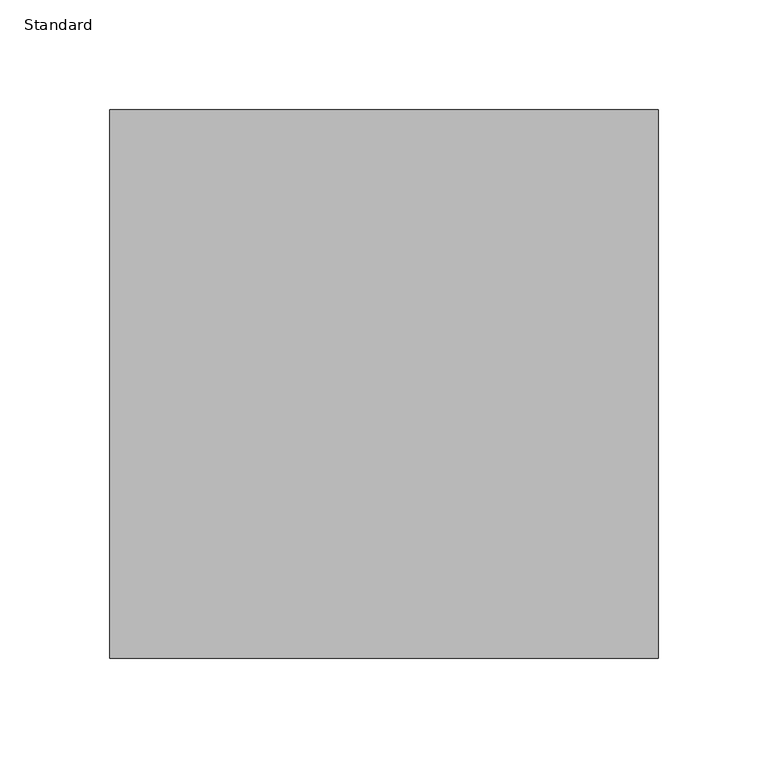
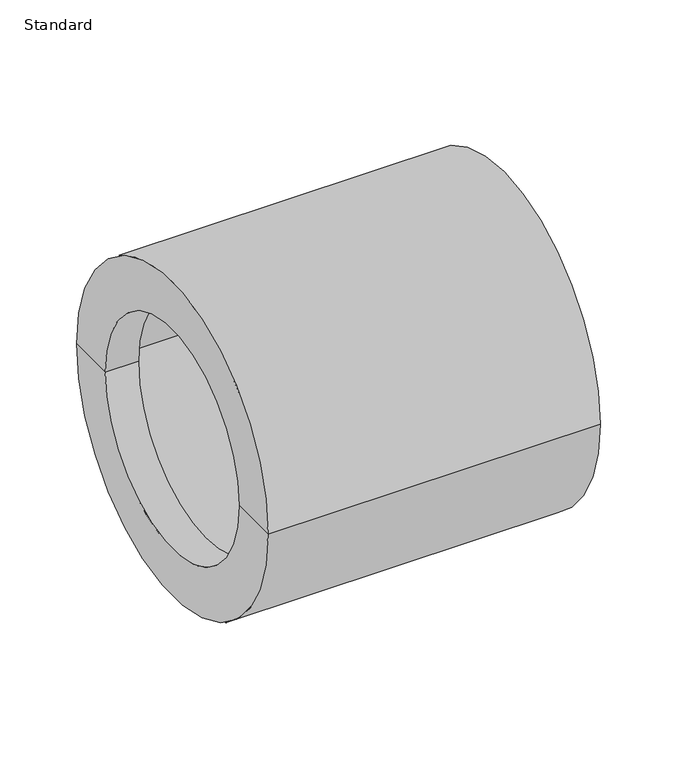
"""IFC4 building model written with IfcOpenShell, lengths in millimetres: pipe fitting geometry, Durapipe_PipeFitting_PVC_ReducingBush : Standard."""

import ifcopenshell
import ifcopenshell.guid

model = None  # the IFC model being written
_history = None  # IfcOwnerHistory: only IFC2X3 demands one
_inside = {}  # id of a spatial element -> (the spatial element, [elements in it])
_under = {}  # id of a project, library or spatial element -> (it, [spatial elements below it])
_declared = {}  # id of a project -> (the project, [libraries it declares])
_typed = {}  # id of a type object -> (the type object, [elements of that type])
_made_of = {}  # id of a material, layer set ... -> (it, [elements and type objects made of it])


def new_model(schema):
    """Start an empty IFC model of exactly this schema.

    Asked for "IFC4X3", IfcOpenShell would pick the latest addendum, in which some entities
    have other attributes; the version numbers below select the first issue.
    IFC2X3 requires an IfcOwnerHistory on every rooted entity: one is made here for all.
    """
    global model, _history
    if schema == "IFC4X3":
        model = ifcopenshell.file(schema_version=(4, 3, 0, 0))
    else:
        model = ifcopenshell.file(schema=schema)
    _inside.clear()
    _under.clear()
    _declared.clear()
    _typed.clear()
    _made_of.clear()
    _history = None
    if model.schema == "IFC2X3":
        org = make("IfcOrganization", Name="unknown")
        user = make(
            "IfcPersonAndOrganization",
            ThePerson=make("IfcPerson", FamilyName="unknown"),
            TheOrganization=org,
        )
        app = make(
            "IfcApplication",
            ApplicationDeveloper=org,
            Version="unknown",
            ApplicationFullName="unknown",
            ApplicationIdentifier="unknown",
        )
        _history = make(
            "IfcOwnerHistory",
            OwningUser=user,
            OwningApplication=app,
            ChangeAction="ADDED",
            CreationDate=0,
        )
    return model


def make(cls, **values):
    """One entity of the class cls with the attributes given. An attribute that is None is left unset."""
    return model.create_entity(
        cls, **{name: value for name, value in values.items() if value is not None}
    )


def rooted(cls, **values):
    """An entity with a GlobalId (a new one), such as an element, a storey or a relation."""
    return make(cls, GlobalId=ifcopenshell.guid.new(), OwnerHistory=_history, **values)


def si_unit(unit_type, name, prefix=None):
    """IfcSIUnit, for example si_unit("LENGTHUNIT", "METRE", prefix="MILLI")."""
    return make("IfcSIUnit", UnitType=unit_type, Prefix=prefix, Name=name)


def assignment(units):
    """IfcUnitAssignment: the units of a project."""
    return None if units is None else make("IfcUnitAssignment", Units=units)


def point(xyz):
    """IfcCartesianPoint."""
    return None if xyz is None else make("IfcCartesianPoint", Coordinates=xyz)


def direction(xyz):
    """IfcDirection."""
    return None if xyz is None else make("IfcDirection", DirectionRatios=xyz)


def frame(location, z_axis=None, x_axis=None):
    """IfcAxis2Placement3D, a coordinate frame: its origin and axes. An axis left out is left unset."""
    return make(
        "IfcAxis2Placement3D",
        Location=point(location),
        Axis=direction(z_axis),
        RefDirection=direction(x_axis),
    )


def origin():
    """The frame at (0, 0, 0) with its axes left unset."""
    return frame((0.0, 0.0, 0.0))


def place(relative_to, where):
    """IfcLocalPlacement: puts the frame where relative to a parent placement (None: the world)."""
    return make(
        "IfcLocalPlacement", PlacementRelTo=relative_to, RelativePlacement=where
    )


def context(
    kind, dimensions, precision=None, world=None, true_north=None, identifier=None
):
    """IfcGeometricRepresentationContext, for example the 3D "Model" context."""
    return make(
        "IfcGeometricRepresentationContext",
        ContextIdentifier=identifier,
        ContextType=kind,
        CoordinateSpaceDimension=dimensions,
        Precision=precision,
        WorldCoordinateSystem=world,
        TrueNorth=true_north,
    )


def project(units=None, contexts=None):
    """IfcProject with its units and contexts."""
    return rooted(
        "IfcProject",
        Name="project",
        RepresentationContexts=contexts,
        UnitsInContext=assignment(units),
    )


def spatial(cls, under=None, at=None, **own):
    """A site, building, storey or space (cls), placed at a placement, below another one or the project."""
    s = rooted(cls, ObjectPlacement=at, **own)
    if under is not None:
        _under.setdefault(under.id(), (under, []))[1].append(s)
    return s


def polyline(points):
    """IfcPolyline through the points."""
    return make("IfcPolyline", Points=[point(p) for p in points])


def circle_curve(where, radius):
    """IfcCircle in the frame where."""
    return make("IfcCircle", Position=where, Radius=radius)


def shape(context_of_items, identifier, shape_type, items):
    """IfcShapeRepresentation: the items that make up one representation, for example the "Body"."""
    return make(
        "IfcShapeRepresentation",
        ContextOfItems=context_of_items,
        RepresentationIdentifier=identifier,
        RepresentationType=shape_type,
        Items=items,
    )


def source(mapping_origin, context_of_items, identifier, shape_type, items):
    """IfcRepresentationMap: a shape defined once, which mapped items show again and again."""
    return make(
        "IfcRepresentationMap",
        MappingOrigin=mapping_origin,
        MappedRepresentation=shape(context_of_items, identifier, shape_type, items),
    )


def transform(
    local_origin,
    x_axis=None,
    y_axis=None,
    z_axis=None,
    scale=None,
    scale2=None,
    scale3=None,
    uniform=True,
):
    """IfcCartesianTransformationOperator3D, or its non-uniform kind. x_axis, y_axis, z_axis: its Axis1, 2, 3."""
    if uniform:
        return make(
            "IfcCartesianTransformationOperator3D",
            Axis1=direction(x_axis),
            Axis2=direction(y_axis),
            LocalOrigin=point(local_origin),
            Scale=scale,
            Axis3=direction(z_axis),
        )
    return make(
        "IfcCartesianTransformationOperator3DnonUniform",
        Axis1=direction(x_axis),
        Axis2=direction(y_axis),
        LocalOrigin=point(local_origin),
        Scale=scale,
        Axis3=direction(z_axis),
        Scale2=scale2,
        Scale3=scale3,
    )


def mapped(mapping_source, mapping_target):
    """IfcMappedItem: shows the shape of a source again, moved by a transform."""
    return make(
        "IfcMappedItem", MappingSource=mapping_source, MappingTarget=mapping_target
    )


def made_of(thing, what):
    """Note that an element or type object is made of a material, layer set ...; save() writes the relation."""
    if what is not None:
        _made_of.setdefault(what.id(), (what, []))[1].append(thing)
    return thing


def element(
    cls,
    number,
    at=None,
    inside=None,
    cuts=None,
    type_object=None,
    material=None,
    context=None,
    identifier="Body",
    shape_type=None,
    held_by="IfcProductDefinitionShape",
    body=None,
    shapes=None,
    **own,
):
    """One element of the class cls, such as IfcWall. Its Tag is "e" and its number.

    at: its placement. inside: the storey or other place that contains it. cuts: it is an
    opening in that element (IfcRelVoidsElement). A single representation is given by context,
    identifier, shape_type and body (its items); several are given by shapes. held_by: the class
    of the entity that holds the representations. save() writes the other relations.
    """
    e = rooted(cls, Tag="e%d" % number, ObjectPlacement=at, **own)
    if body is not None:
        shapes = [shape(context, identifier, shape_type, body)]
    if shapes is not None:
        e.Representation = make(held_by, Representations=shapes)
    if inside is not None:
        _inside.setdefault(inside.id(), (inside, []))[1].append(e)
    if cuts is not None:
        rooted(
            "IfcRelVoidsElement", RelatingBuildingElement=cuts, RelatedOpeningElement=e
        )
    if type_object is not None:
        _typed.setdefault(type_object.id(), (type_object, []))[1].append(e)
    return made_of(e, material)


def aggregate(whole, parts):
    """IfcRelAggregates: a whole, such as a stair, and the parts it consists of."""
    return rooted("IfcRelAggregates", RelatingObject=whole, RelatedObjects=parts)


def save(model, path):
    """Write the relations noted so far, then the file.

    IfcRelAggregates (storeys below a building ...), IfcRelContainedInSpatialStructure (elements
    in a storey), IfcRelDefinesByType, IfcRelAssociatesMaterial and IfcRelDeclares: one each for
    every whole, place, type object, material and project.
    """
    for whole, parts in _under.values():
        aggregate(whole, parts)
    for where, things in _inside.values():
        rooted(
            "IfcRelContainedInSpatialStructure",
            RelatedElements=things,
            RelatingStructure=where,
        )
    for kind, things in _typed.values():
        rooted("IfcRelDefinesByType", RelatedObjects=things, RelatingType=kind)
    for what, things in _made_of.values():
        rooted("IfcRelAssociatesMaterial", RelatedObjects=things, RelatingMaterial=what)
    for by, libraries in _declared.values():
        rooted("IfcRelDeclares", RelatingContext=by, RelatedDefinitions=libraries)
    model.write(path)


def plane_surface(at):
    """IfcPlane: the flat surface through the origin of the frame at, square to its z axis."""
    return make("IfcPlane", Position=at)


def cylinder_surface(at, radius):
    """IfcCylindricalSurface: all points at the distance radius from the z axis of the frame at."""
    return make("IfcCylindricalSurface", Position=at, Radius=radius)


def revolved_surface(curve, axis_point, axis_direction):
    """IfcSurfaceOfRevolution: the curve turned about the line through axis_point along axis_direction."""
    return make(
        "IfcSurfaceOfRevolution",
        SweptCurve=make("IfcArbitraryOpenProfileDef", ProfileType="CURVE", Curve=curve),
        AxisPosition=make("IfcAxis1Placement", Location=point(axis_point), Axis=direction(axis_direction)),
    )


def advanced_brep(points, edges, surfaces, faces):
    """IfcAdvancedBrep: a solid bounded by faces that lie on surfaces and meet in shared edges.

    An edge is (start, end): straight between two places in points (the first is 0);
    or (start, end, curve); or (start, end, curve, False) where it runs against its curve.
    A face is (place in surfaces, loops), or (place, loops, False) where it looks against
    its surface's normal. A loop lists edges by number (the first is 1), with a minus sign
    where the edge is run from its end to its start. The first loop is the outer one.
    """
    corners = [point(p) for p in points]
    vertices = [make("IfcVertexPoint", VertexGeometry=c) for c in corners]
    made = []
    for start, end, *more in edges:
        made.append(
            make(
                "IfcEdgeCurve",
                EdgeStart=vertices[start],
                EdgeEnd=vertices[end],
                EdgeGeometry=more[0] if more else make("IfcPolyline", Points=[corners[start], corners[end]]),
                SameSense=more[1] if len(more) > 1 else True,
            )
        )
    hull = []
    for where, loops, *sense in faces:
        bounds = []
        for j, loop in enumerate(loops):
            ring = [make("IfcOrientedEdge", EdgeElement=made[abs(k) - 1], Orientation=k > 0) for k in loop]
            bounds.append(
                make(
                    "IfcFaceOuterBound" if j == 0 else "IfcFaceBound",
                    Bound=make("IfcEdgeLoop", EdgeList=ring),
                    Orientation=True,
                )
            )
        hull.append(make("IfcAdvancedFace", Bounds=bounds, FaceSurface=surfaces[where], SameSense=sense[0] if sense else True))
    return make("IfcAdvancedBrep", Outer=make("IfcClosedShell", CfsFaces=hull))


def standard_249a9a1f(model_context):
    return source(origin(), model_context, "Body", "AdvancedBrep", [
        advanced_brep(
        [(-25.0, -87.5, 0.0), (-25.0, 87.5, 0.0), (-25.0, 125.0, 0.0), (-25.0, -125.0, 0.0), (0.0, -87.5, 0.0), (0.0, 87.5, 0.0), (0.0, -100.0, 0.0), (0.0, 100.0, 0.0), (225.0, -100.0, 0.0), (225.0, 100.0, 0.0), (225.0, -125.0, 0.0), (225.0, 125.0, 0.0)],
        [
            (0, 1, circle_curve(frame((-25.0, 0.0, 0.0), z_axis=(1.0, 0.0, 0.0), x_axis=(0.0, 1.0, 0.0)), 87.5)),
            (1, 2),
            (2, 3, circle_curve(frame((-25.0, 0.0, 0.0), z_axis=(-1.0, 0.0, 0.0), x_axis=(0.0, 1.0, 0.0)), 125.0)),
            (3, 0),
            (1, 0, circle_curve(frame((-25.0, 0.0, 0.0), z_axis=(1.0, 0.0, 0.0), x_axis=(0.0, 1.0, 0.0)), 87.5)),
            (3, 2, circle_curve(frame((-25.0, 0.0, 0.0), z_axis=(-1.0, 0.0, 0.0), x_axis=(0.0, 1.0, 0.0)), 125.0)),
            (4, 5, circle_curve(frame((0.0, 0.0, 0.0), z_axis=(1.0, 0.0, 0.0), x_axis=(0.0, 1.0, 0.0)), 87.5)),
            (5, 1),
            (0, 4),
            (5, 4, circle_curve(frame((0.0, 0.0, 0.0), z_axis=(1.0, 0.0, 0.0), x_axis=(0.0, 1.0, 0.0)), 87.5)),
            (6, 7, circle_curve(frame((0.0, 0.0, 0.0), z_axis=(1.0, 0.0, 0.0), x_axis=(0.0, 1.0, 0.0)), 100.0)),
            (7, 5),
            (4, 6),
            (7, 6, circle_curve(frame((0.0, 0.0, 0.0), z_axis=(1.0, 0.0, 0.0), x_axis=(0.0, 1.0, 0.0)), 100.0)),
            (8, 9, circle_curve(frame((225.0, 0.0, 0.0), z_axis=(1.0, 0.0, 0.0), x_axis=(0.0, 1.0, 0.0)), 100.0)),
            (9, 7),
            (6, 8),
            (9, 8, circle_curve(frame((225.0, 0.0, 0.0), z_axis=(1.0, 0.0, 0.0), x_axis=(0.0, 1.0, 0.0)), 100.0)),
            (10, 11, circle_curve(frame((225.0, 0.0, 0.0), z_axis=(1.0, 0.0, 0.0), x_axis=(0.0, 1.0, 0.0)), 125.0)),
            (11, 9),
            (8, 10),
            (11, 10, circle_curve(frame((225.0, 0.0, 0.0), z_axis=(1.0, 0.0, 0.0), x_axis=(0.0, 1.0, 0.0)), 125.0)),
            (2, 11),
            (10, 3),
        ],
        [
            plane_surface(frame((-25.0, 0.0, 0.0), z_axis=(-1.0, 0.0, 0.0), x_axis=(0.0, 1.0, 0.0))),
            revolved_surface(polyline([(-25.0, 87.5, 0.0), (0.0, 87.5, 0.0)]), (2211.0, 0.0, 0.0), (-1.0, 0.0, 0.0)),
            plane_surface(frame((0.0, 0.0, 0.0), z_axis=(1.0, 0.0, 0.0), x_axis=(0.0, 1.0, 0.0))),
            revolved_surface(polyline([(0.0, 100.0, 0.0), (225.0, 100.0, 0.0)]), (2211.0, 0.0, 0.0), (-1.0, 0.0, 0.0)),
            plane_surface(frame((225.0, 0.0, 0.0), z_axis=(1.0, 0.0, 0.0), x_axis=(0.0, 1.0, 0.0))),
            cylinder_surface(frame((2211.0, 0.0, 0.0), z_axis=(-1.0, 0.0, 0.0), x_axis=(0.0, 1.0, 0.0)), 125.0),
        ],
        [
            (0, [[1, 2, 3, 4]]),
            (0, [[5, -4, 6, -2]]),
            (1, [[7, 8, -1, 9]]),
            (1, [[10, -9, -5, -8]]),
            (2, [[11, 12, -7, 13]]),
            (2, [[14, -13, -10, -12]]),
            (3, [[15, 16, -11, 17]]),
            (3, [[18, -17, -14, -16]]),
            (4, [[19, 20, -15, 21]]),
            (4, [[22, -21, -18, -20]]),
            (5, [[-3, 23, -19, 24]]),
            (5, [[-6, -24, -22, -23]]),
        ],
    ),
    ])


if __name__ == "__main__":
    model = new_model("IFC4")
    model_context = context("Model", 3, world=origin())
    ifc_project = project(units=[si_unit("LENGTHUNIT", "METRE", prefix="MILLI")], contexts=[model_context])
    site = spatial("IfcSite", under=ifc_project)
    building = spatial("IfcBuilding", under=site)
    placement = place(None, origin())
    standard_shape = standard_249a9a1f(model_context)
    element("IfcPipeFitting", 1, ObjectType="Durapipe_PipeFitting_PVC_ReducingBush : Standard", at=placement, inside=building, context=model_context, shape_type="MappedRepresentation", body=[
        mapped(standard_shape, transform((0.0, 0.0, 0.0), x_axis=(1.0, 0.0, 0.0), y_axis=(0.0, 1.0, 0.0), z_axis=(0.0, 0.0, 1.0))),
    ])
    save(model, "model.ifc")
